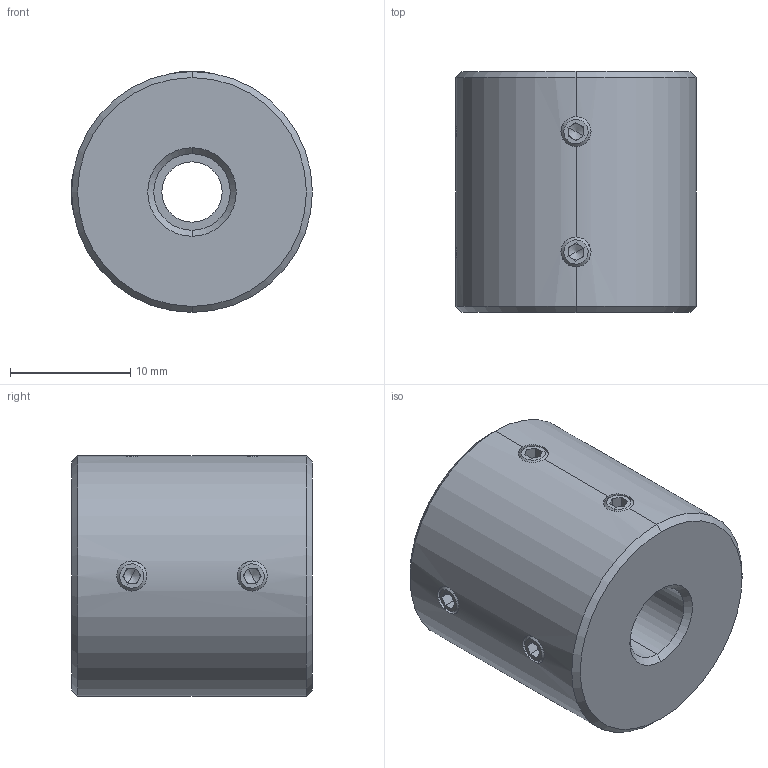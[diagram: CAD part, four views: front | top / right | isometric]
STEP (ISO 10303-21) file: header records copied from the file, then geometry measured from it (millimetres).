
FILE_DESCRIPTION (( 'STEP AP214' ), '1' );
FILE_NAME ('LL-D-D20L20-5-6.35.STEP', '2022-07-23T06:30:17', ( '' ), ( '' ), 'SwSTEP 2.0', 'SolidWorks 2022', '' );
FILE_SCHEMA (( 'AUTOMOTIVE_DESIGN' ));
Length unit declared in the file: millimetre
Products named in the file (1): LL-D-D20L20-5-6.35
Bounding box: 20 x 20 x 20 mm (x, y, z)
Volume: 5674.9 mm3; surface area: 2311 mm2
Topology: 1 solids, 1 shells, 113 faces, 286 edges, 176 vertices
Faces by surface type: plane 59, cone 32, cylinder 22
Entity records: 3642 total; most frequent: CARTESIAN_POINT 892, DIRECTION 582, ORIENTED_EDGE 556, EDGE_CURVE 278, AXIS2_PLACEMENT_3D 214, VERTEX_POINT 176, VECTOR 154, LINE 154
